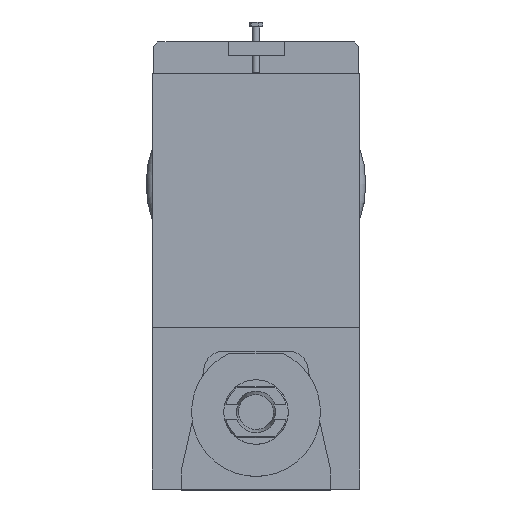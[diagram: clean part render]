
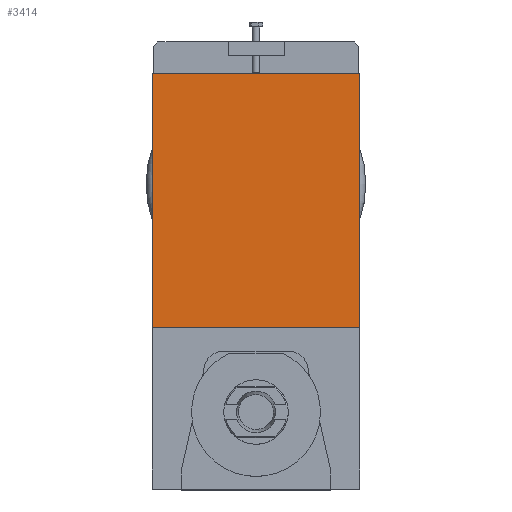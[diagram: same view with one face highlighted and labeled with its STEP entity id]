
A CAD part, top view. The second image highlights one B-rep face of the part: STEP entity #3414.
In plain terms, the highlighted planar face has unit normal (0, 0, 1).
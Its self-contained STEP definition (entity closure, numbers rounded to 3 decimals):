
#3296=CARTESIAN_POINT('',(111.,363.0,2.));
#3297=VERTEX_POINT('',#3296);
#3304=CARTESIAN_POINT('',(111.,91.,2.));
#3305=VERTEX_POINT('',#3304);
#3306=CARTESIAN_POINT('',(111.,363.0,2.));
#3307=DIRECTION('',(0.0,-1.0,0.0));
#3308=VECTOR('',#3307,272.);
#3309=LINE('',#3306,#3308);
#3310=EDGE_CURVE('',#3297,#3305,#3309,.T.);
#3330=CARTESIAN_POINT('',(-111.,363.0,2.));
#3331=VERTEX_POINT('',#3330);
#3338=CARTESIAN_POINT('',(-111.,363.0,2.));
#3339=DIRECTION('',(1.0,0.0,0.0));
#3340=VECTOR('',#3339,222.);
#3341=LINE('',#3338,#3340);
#3342=EDGE_CURVE('',#3331,#3297,#3341,.T.);
#3364=CARTESIAN_POINT('',(-111.,91.,2.));
#3365=VERTEX_POINT('',#3364);
#3372=CARTESIAN_POINT('',(-111.,91.,2.));
#3373=DIRECTION('',(0.0,1.0,0.0));
#3374=VECTOR('',#3373,272.);
#3375=LINE('',#3372,#3374);
#3376=EDGE_CURVE('',#3365,#3331,#3375,.T.);
#3398=CARTESIAN_POINT('',(0.,227.,2.));
#3399=DIRECTION('',(0.0,0.0,1.0));
#3400=DIRECTION('',(1.0,0.0,0.0));
#3401=AXIS2_PLACEMENT_3D('',#3398,#3399,#3400);
#3402=PLANE('',#3401);
#3403=ORIENTED_EDGE('',*,*,#3342,.F.);
#3404=ORIENTED_EDGE('',*,*,#3376,.F.);
#3405=CARTESIAN_POINT('',(111.,91.,2.));
#3406=DIRECTION('',(-1.0,0.0,0.0));
#3407=VECTOR('',#3406,222.);
#3408=LINE('',#3405,#3407);
#3409=EDGE_CURVE('',#3305,#3365,#3408,.T.);
#3410=ORIENTED_EDGE('',*,*,#3409,.F.);
#3411=ORIENTED_EDGE('',*,*,#3310,.F.);
#3412=EDGE_LOOP('',(#3403,#3404,#3410,#3411));
#3413=FACE_OUTER_BOUND('',#3412,.T.);
#3414=ADVANCED_FACE('',(#3413),#3402,.T.);
